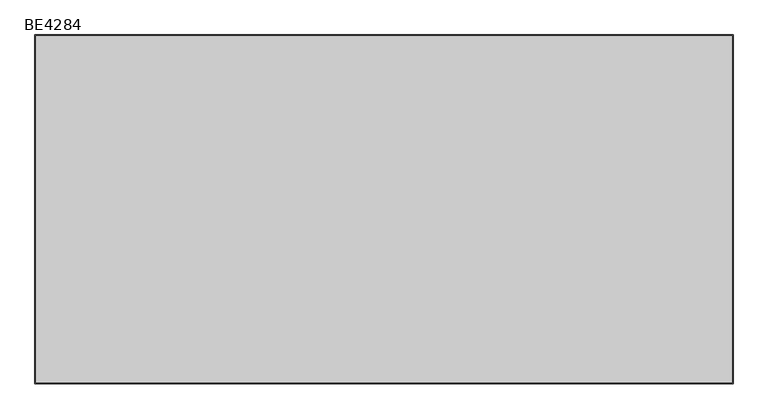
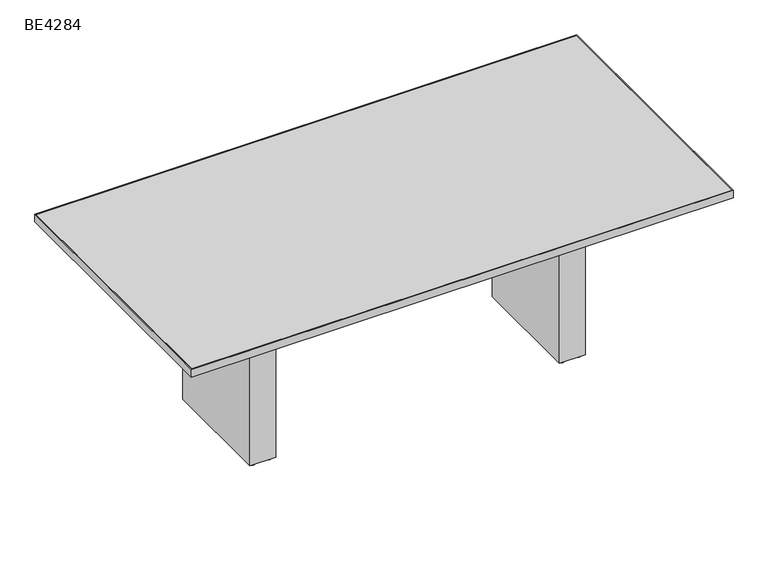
"""IFC4 building model written with IfcOpenShell, lengths in millimetres: furniture geometry, ERG-Beta-Conference_Table-Rectangle : BE4284."""

from ifc_helpers import new_model, si_unit, point, frame, frame_2d, origin, origin_with_axes, place, context, project, spatial, polyline, circle_curve, trimmed, segment, composite_curve, outline, extrude, source, transform, mapped, element, save


def be4284_8c53abd4(model_context):
    return source(origin(), model_context, "Body", "SweptSolid", [
        extrude(outline(composite_curve([segment(trimmed(circle_curve(frame_2d((1120.775, 263.276527)), 9.525), [point((1111.25, 263.276527))], [point((1130.3, 263.276527))], False, "CARTESIAN"), True, "CONTINUOUS"), segment(trimmed(circle_curve(frame_2d((1120.775, 263.276527)), 9.525), [point((1130.3, 263.276527))], [point((1111.25, 263.276527))], False, "CARTESIAN"), True, "CONTINUOUS")], self_intersect=False)), origin_with_axes(), (0.0, 0.0, 1.0), 9.525),
        extrude(outline(composite_curve([segment(trimmed(circle_curve(frame_2d((1184.275, 263.276527)), 9.525), [point((1174.75, 263.276527))], [point((1193.8, 263.276527))], False, "CARTESIAN"), True, "CONTINUOUS"), segment(trimmed(circle_curve(frame_2d((1184.275, 263.276527)), 9.525), [point((1193.8, 263.276527))], [point((1174.75, 263.276527))], False, "CARTESIAN"), True, "CONTINUOUS")], self_intersect=False)), origin_with_axes(), (0.0, 0.0, 1.0), 9.525),
        extrude(outline(composite_curve([segment(trimmed(circle_curve(frame_2d((1120.775, -155.823473)), 9.525), [point((1111.25, -155.823473))], [point((1130.3, -155.823473))], False, "CARTESIAN"), True, "CONTINUOUS"), segment(trimmed(circle_curve(frame_2d((1120.775, -155.823473)), 9.525), [point((1130.3, -155.823473))], [point((1111.25, -155.823473))], False, "CARTESIAN"), True, "CONTINUOUS")], self_intersect=False)), origin_with_axes(), (0.0, 0.0, 1.0), 9.525),
        extrude(outline(composite_curve([segment(trimmed(circle_curve(frame_2d((1184.275, -155.823473)), 9.525), [point((1174.75, -155.823473))], [point((1193.8, -155.823473))], False, "CARTESIAN"), True, "CONTINUOUS"), segment(trimmed(circle_curve(frame_2d((1184.275, -155.823473)), 9.525), [point((1193.8, -155.823473))], [point((1174.75, -155.823473))], False, "CARTESIAN"), True, "CONTINUOUS")], self_intersect=False)), origin_with_axes(), (0.0, 0.0, 1.0), 9.525),
        extrude(outline(polyline([(1203.325, 282.326527), (1203.325, -174.873473), (1101.725, -174.873473), (1101.725, 282.326527), (1203.325, 282.326527)])), frame((0.0, 0.0, 9.525), z_axis=(0.0, 0.0, 1.0), x_axis=(1.0, 0.0, 0.0)), (0.0, 0.0, 1.0), 695.3249758),
        extrude(outline(composite_curve([segment(trimmed(circle_curve(frame_2d((-98.425, 263.276527)), 9.525), [point((-107.95, 263.276527))], [point((-88.9, 263.276527))], False, "CARTESIAN"), True, "CONTINUOUS"), segment(trimmed(circle_curve(frame_2d((-98.425, 263.276527)), 9.525), [point((-88.9, 263.276527))], [point((-107.95, 263.276527))], False, "CARTESIAN"), True, "CONTINUOUS")], self_intersect=False)), origin_with_axes(), (0.0, 0.0, 1.0), 9.525),
        extrude(outline(composite_curve([segment(trimmed(circle_curve(frame_2d((-34.925, 263.276527)), 9.525), [point((-44.45, 263.276527))], [point((-25.4, 263.276527))], False, "CARTESIAN"), True, "CONTINUOUS"), segment(trimmed(circle_curve(frame_2d((-34.925, 263.276527)), 9.525), [point((-25.4, 263.276527))], [point((-44.45, 263.276527))], False, "CARTESIAN"), True, "CONTINUOUS")], self_intersect=False)), origin_with_axes(), (0.0, 0.0, 1.0), 9.525),
        extrude(outline(composite_curve([segment(trimmed(circle_curve(frame_2d((-98.425, -155.823473)), 9.525), [point((-107.95, -155.823473))], [point((-88.9, -155.823473))], False, "CARTESIAN"), True, "CONTINUOUS"), segment(trimmed(circle_curve(frame_2d((-98.425, -155.823473)), 9.525), [point((-88.9, -155.823473))], [point((-107.95, -155.823473))], False, "CARTESIAN"), True, "CONTINUOUS")], self_intersect=False)), origin_with_axes(), (0.0, 0.0, 1.0), 9.525),
        extrude(outline(composite_curve([segment(trimmed(circle_curve(frame_2d((-34.925, -155.823473)), 9.525), [point((-44.45, -155.823473))], [point((-25.4, -155.823473))], False, "CARTESIAN"), True, "CONTINUOUS"), segment(trimmed(circle_curve(frame_2d((-34.925, -155.823473)), 9.525), [point((-25.4, -155.823473))], [point((-44.45, -155.823473))], False, "CARTESIAN"), True, "CONTINUOUS")], self_intersect=False)), origin_with_axes(), (0.0, 0.0, 1.0), 9.525),
        extrude(outline(polyline([(-15.875, 282.326527), (-15.875, -174.873473), (-117.475, -174.873473), (-117.475, 282.326527), (-15.875, 282.326527)])), frame((0.0, 0.0, 9.525), z_axis=(0.0, 0.0, 1.0), x_axis=(1.0, 0.0, 0.0)), (0.0, 0.0, 1.0), 695.3249758),
        extrude(outline(polyline([(1609.725, -479.673473), (-523.875, -479.673473), (-523.875, 587.126527), (1609.725, 587.126527), (1609.725, -479.673473)]), holes=[polyline([(1606.55, 583.951527), (-520.7, 583.951527), (-520.7, -476.498473), (1606.55, -476.498473), (1606.55, 583.951527)])]), frame((0.0, 0.0, 704.85), z_axis=(0.0, 0.0, 1.0), x_axis=(1.0, 0.0, 0.0)), (0.0, 0.0, 1.0), 31.75),
        extrude(outline(polyline([(1606.55, -476.498473), (-520.7, -476.498473), (-520.7, 583.951527), (1606.55, 583.951527), (1606.55, -476.498473)])), frame((0.0, 0.0, 704.85), z_axis=(0.0, 0.0, 1.0), x_axis=(1.0, 0.0, 0.0)), (0.0, 0.0, 1.0), 31.75),
    ])


if __name__ == "__main__":
    model = new_model("IFC4")
    model_context = context("Model", 3, world=origin())
    ifc_project = project(units=[si_unit("LENGTHUNIT", "METRE", prefix="MILLI")], contexts=[model_context])
    site = spatial("IfcSite", under=ifc_project)
    building = spatial("IfcBuilding", under=site)
    placement = place(None, origin())
    be4284_shape = be4284_8c53abd4(model_context)
    element("IfcFurniture", 1, ObjectType="ERG-Beta-Conference_Table-Rectangle : BE4284", at=placement, inside=building, context=model_context, shape_type="MappedRepresentation", body=[
        mapped(be4284_shape, transform((0.0, 0.0, 0.0), x_axis=(1.0, 0.0, 0.0), y_axis=(0.0, 1.0, 0.0), z_axis=(0.0, 0.0, 1.0))),
    ])
    save(model, "model.ifc")
